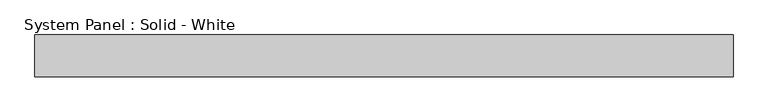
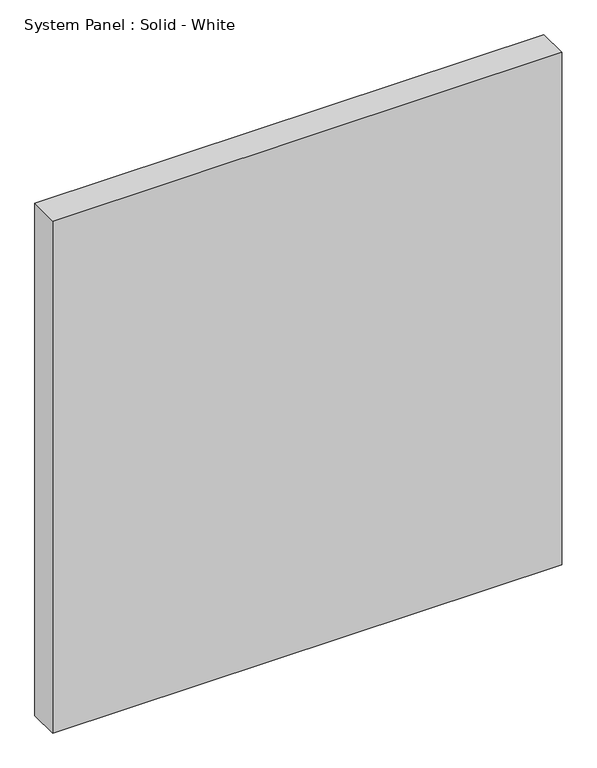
"""IFC4 building model written with IfcOpenShell, lengths in millimetres: plate geometry, System Panel : Solid - White."""

from ifc_helpers import new_model, si_unit, origin, origin_with_axes, place, context, project, spatial, polyline, outline, extrude, source, transform, mapped, element, save


def system_panel_solid_white_e6f20d80(model_context):
    return source(origin(), model_context, "Body", "SweptSolid", [
        extrude(outline(polyline([(528.4107144, -19.05), (-528.4107144, -19.05), (-528.4107144, 44.45), (528.4107144, 44.45), (528.4107144, -19.05)])), origin_with_axes(), (0.0, 0.0, 1.0), 1123.95),
    ])


if __name__ == "__main__":
    model = new_model("IFC4")
    model_context = context("Model", 3, world=origin())
    ifc_project = project(units=[si_unit("LENGTHUNIT", "METRE", prefix="MILLI")], contexts=[model_context])
    site = spatial("IfcSite", under=ifc_project)
    building = spatial("IfcBuilding", under=site)
    placement = place(None, origin())
    system_panel_solid_white_shape = system_panel_solid_white_e6f20d80(model_context)
    element("IfcPlate", 1, ObjectType="System Panel : Solid - White", at=placement, inside=building, context=model_context, shape_type="MappedRepresentation", body=[
        mapped(system_panel_solid_white_shape, transform((0.0, 0.0, 0.0), x_axis=(1.0, 0.0, 0.0), y_axis=(0.0, 1.0, 0.0), z_axis=(0.0, 0.0, 1.0))),
    ])
    save(model, "model.ifc")
